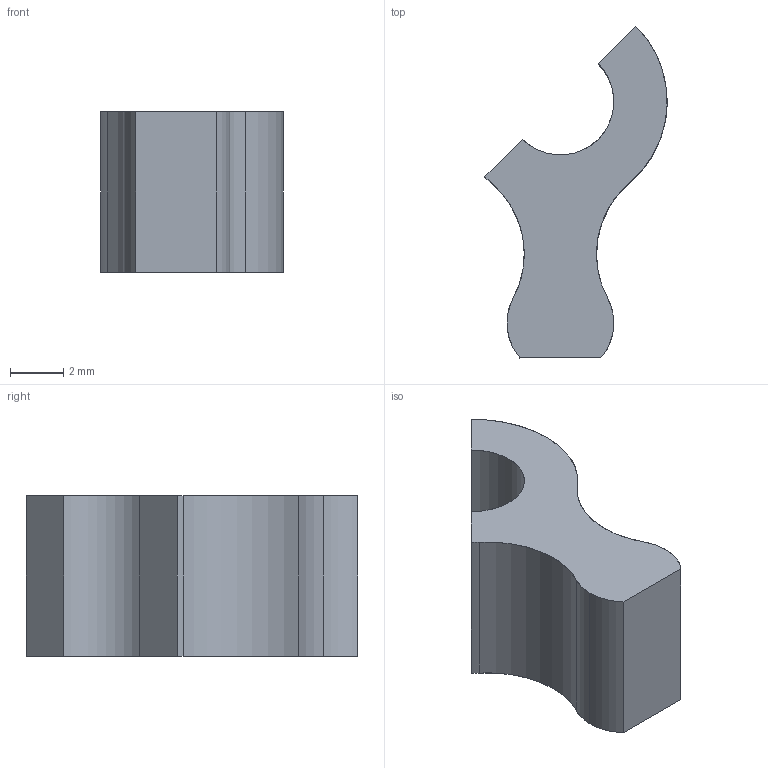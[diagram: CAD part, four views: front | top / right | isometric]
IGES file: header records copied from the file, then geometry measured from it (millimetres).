
Start section: SolidWorks IGES FILE using analytic representation for surfaces
Global section: file name: C:\Documents and Settings\All Users\Documents\YVES\solidworks\u11_pince\pince 3 doigts parrallèle\biellette rdm.IGS; native system: SolidWorks 2001Plus by SolidWorks Corporation; preprocessor: Version 5.3; author: BOUVIER; date: 041106.190433; units: millimetre
Bounding box: 6.83 x 12.43 x 6 mm (x, y, z)
Surface area: 283.3 mm2 (no closed solid volume)
Topology: 0 solids, 0 shells, 14 faces, 124 edges, 124 vertices
Faces by surface type: revolution 9, bspline 5
